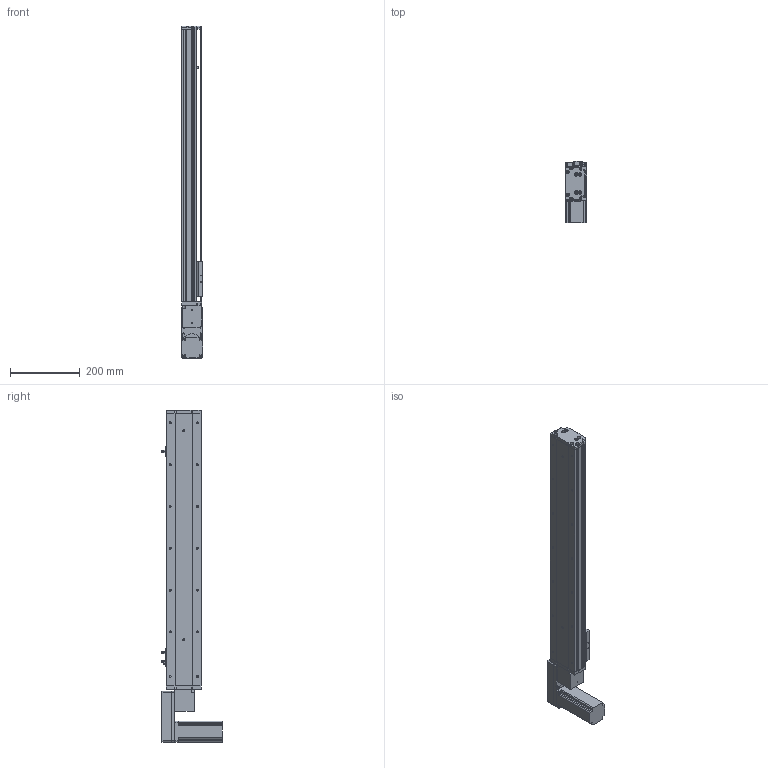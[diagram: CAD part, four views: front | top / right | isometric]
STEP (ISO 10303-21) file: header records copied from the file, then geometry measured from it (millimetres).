
FILE_DESCRIPTION (( 'STEP AP214' ), '1' );
FILE_NAME ('KSD100B-S600-MLB-CM.STEP', '2019-08-31T01:40:39', ( '微软用户' ), ( '微软中国' ), 'SwSTEP 2.0', 'SolidWorks 2014', '' );
FILE_SCHEMA (( 'AUTOMOTIVE_DESIGN' ));
Length unit declared in the file: millimetre
Products named in the file (12): 100宽马达安装板同步带; 100遵傷啣肮祭湍; 100宽底板半封闭同步带600行程; KSD100B-S600-MLB-CM; 悵誘欶奻狟殏; 100宽马达安装板连板上下折丝杆同步带; 台达ECMA－C20604AS伺服电机; U倰嫖萇EEㄜSX672; 覜茼え100遵圉猾敕; 100宽防尘板600行程-同步带; 100宽马达安装板同步带左; 100宽同步带安装板半封闭
Assembly tree (13 placements, depth 2):
  KSD100B-S600-MLB-CM
    100宽底板半封闭同步带600行程
    100遵傷啣肮祭湍
    100宽马达安装板同步带
    100宽同步带安装板半封闭
    100宽马达安装板同步带左
    100宽防尘板600行程-同步带
    覜茼え100遵圉猾敕
    U倰嫖萇EEㄜSX672  x3
    台达ECMA－C20604AS伺服电机
    100宽马达安装板连板上下折丝杆同步带
    悵誘欶奻狟殏
Bounding box: 61 x 174.7 x 953 mm (x, y, z)
Volume: 2188309.1 mm3; surface area: 703480.6 mm2
Topology: 14 solids, 14 shells, 1359 faces, 3806 edges, 2437 vertices
Faces by surface type: cylinder 669, plane 579, cone 111
Entity records: 47371 total; most frequent: CARTESIAN_POINT 8900, DIRECTION 6570, ORIENTED_EDGE 6296, EDGE_CURVE 3148, AXIS2_PLACEMENT_3D 2389, VERTEX_POINT 2061, VECTOR 1792, LINE 1792
